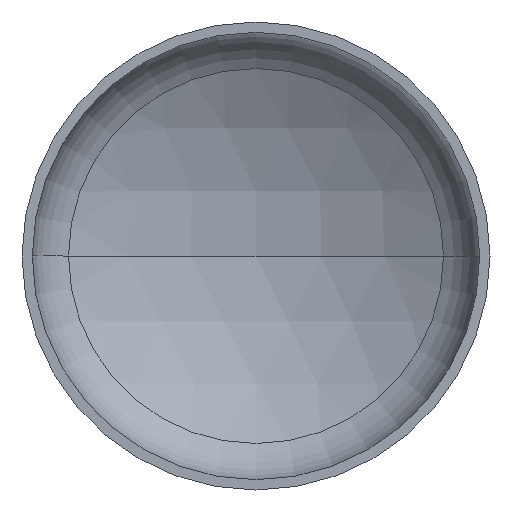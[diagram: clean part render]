
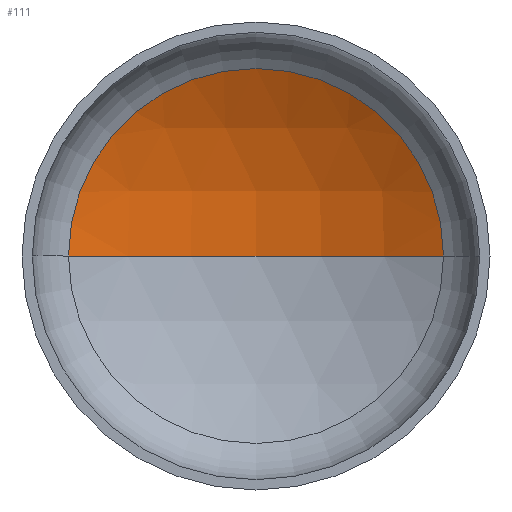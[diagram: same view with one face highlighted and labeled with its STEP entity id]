
A CAD part, front view. The second image highlights one B-rep face of the part: STEP entity #111.
In plain terms, the highlighted spherical face has radius 800 mm.
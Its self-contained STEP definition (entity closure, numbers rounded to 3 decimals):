
#9 = DIRECTION ( 'NONE',  ( 0., 0., -1. ) ) ;
#13 = CARTESIAN_POINT ( 'NONE',  ( 0., -488.297, 0. ) ) ;
#18 = EDGE_LOOP ( 'NONE', ( #38, #155, #134 ) ) ;
#37 = AXIS2_PLACEMENT_3D ( 'NONE', #147, #317, #191 ) ;
#38 = ORIENTED_EDGE ( 'NONE', *, *, #153, .F. ) ;
#40 = VERTEX_POINT ( 'NONE', #292 ) ;
#41 = AXIS2_PLACEMENT_3D ( 'NONE', #196, #225, #198 ) ;
#43 = AXIS2_PLACEMENT_3D ( 'NONE', #13, #9, #376 ) ;
#46 = AXIS2_PLACEMENT_3D ( 'NONE', #222, #219, #214 ) ;
#83 = VERTEX_POINT ( 'NONE', #211 ) ;
#90 = EDGE_CURVE ( 'NONE', #40, #83, #379, .T. ) ;
#106 = CIRCLE ( 'NONE', #37, 800. ) ;
#111 = ADVANCED_FACE ( 'NONE', ( #194 ), #262, .F. ) ;
#116 = VERTEX_POINT ( 'NONE', #228 ) ;
#126 = EDGE_CURVE ( 'NONE', #116, #40, #372, .T. ) ;
#134 = ORIENTED_EDGE ( 'NONE', *, *, #90, .T. ) ;
#147 = CARTESIAN_POINT ( 'NONE',  ( 0., -488.297, 0. ) ) ;
#153 = EDGE_CURVE ( 'NONE', #116, #83, #106, .T. ) ;
#155 = ORIENTED_EDGE ( 'NONE', *, *, #126, .T. ) ;
#191 = DIRECTION ( 'NONE',  ( 1., 0., 0. ) ) ;
#194 = FACE_OUTER_BOUND ( 'NONE', #18, .T. ) ;
#196 = CARTESIAN_POINT ( 'NONE',  ( 0., -488.297, 0. ) ) ;
#198 = DIRECTION ( 'NONE',  ( -1., 0., 0. ) ) ;
#211 = CARTESIAN_POINT ( 'NONE',  ( -400.62, 204.164, 0. ) ) ;
#214 = DIRECTION ( 'NONE',  ( 1., 0., 0. ) ) ;
#219 = DIRECTION ( 'NONE',  ( 0., -1., 0. ) ) ;
#222 = CARTESIAN_POINT ( 'NONE',  ( 0., 204.164, 0. ) ) ;
#225 = DIRECTION ( 'NONE',  ( 0., 0., -1. ) ) ;
#228 = CARTESIAN_POINT ( 'NONE',  ( 0., 311.703, 0. ) ) ;
#262 = SPHERICAL_SURFACE ( 'NONE', #41, 800. ) ;
#292 = CARTESIAN_POINT ( 'NONE',  ( 400.62, 204.164, 0. ) ) ;
#317 = DIRECTION ( 'NONE',  ( 0., 0., 1. ) ) ;
#372 = CIRCLE ( 'NONE', #43, 800. ) ;
#376 = DIRECTION ( 'NONE',  ( -1., 0., 0. ) ) ;
#379 = CIRCLE ( 'NONE', #46, 400.62 ) ;
